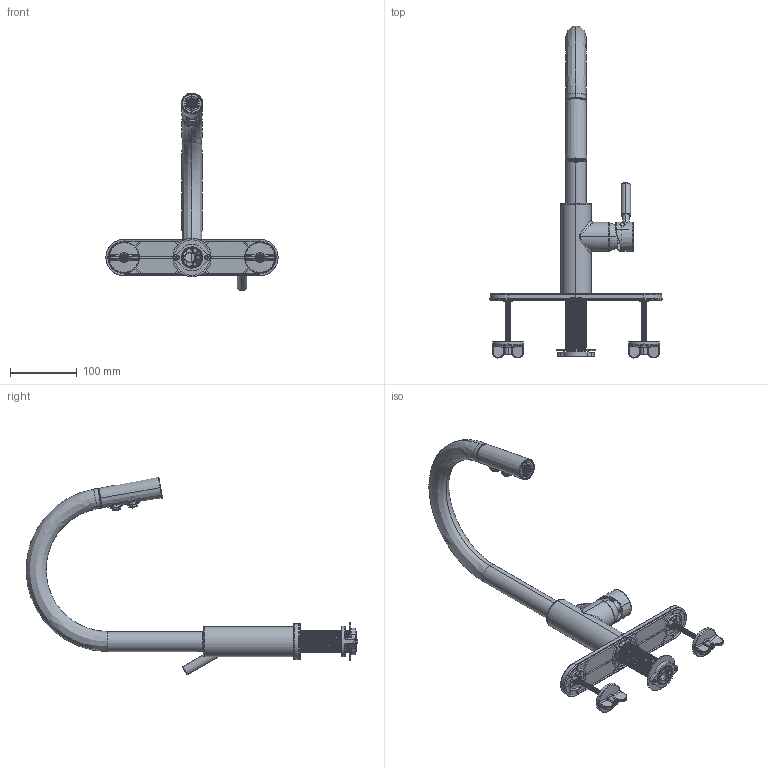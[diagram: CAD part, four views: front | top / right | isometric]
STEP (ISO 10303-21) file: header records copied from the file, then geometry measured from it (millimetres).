
FILE_DESCRIPTION (( 'STEP AP203' ), '1' );
FILE_NAME ('SK3510PD.STEP', '2025-01-28T20:36:57', ( '' ), ( '' ), 'SwSTEP 2.0', 'SolidWorks 2023', '' );
FILE_SCHEMA (( 'CONFIG_CONTROL_DESIGN' ));
Length unit declared in the file: inch
Products named in the file (1): SK3510PD
Bounding box: 257.6 x 495.99 x 295.64 mm (x, y, z)
Surface area: 216614 mm2 (no closed solid volume)
Topology: 0 solids, 59 shells, 1020 faces, 4731 edges, 3695 vertices
Faces by surface type: cylinder 495, bspline 299, plane 138, cone 86, torus 2
Entity records: 107169 total; most frequent: CARTESIAN_POINT 75651, ORIENTED_EDGE 7015, EDGE_CURVE 4723, DIRECTION 4272, VERTEX_POINT 3695, B_SPLINE_CURVE_WITH_KNOTS 2216, VECTOR 1680, LINE 1680
